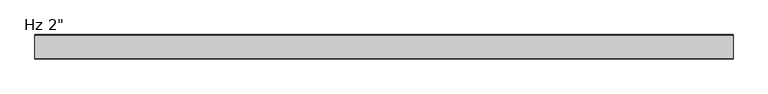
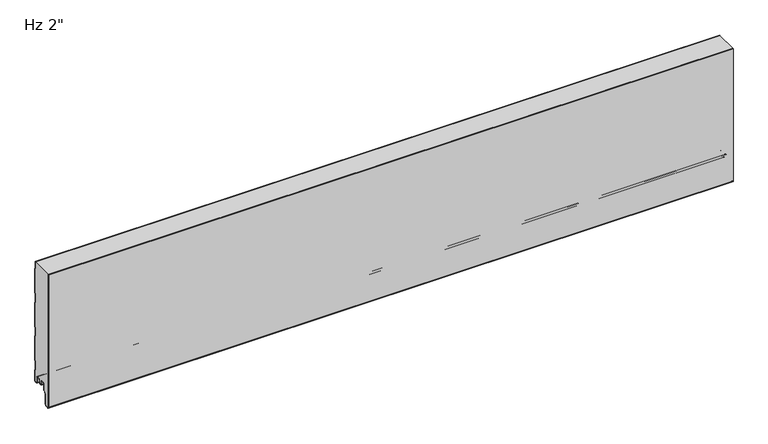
"""IFC4 building model written with IfcOpenShell, lengths in millimetres: plate geometry."""

from ifc_helpers import new_model, si_unit, point, frame, frame_2d, origin, place, context, project, spatial, polyline, circle_curve, trimmed, segment, composite_curve, outline, extrude, source, transform, mapped, element, save
from ifc_brep_helpers import plane_surface, cylinder_surface, revolved_surface, advanced_brep


def plate_b47726fb(model_context):
    return source(origin(), model_context, "Body", "SolidModel", [
        advanced_brep(
        [(-730.0, -22.470875, 1.0316999), (-730.0, -21.3014003, 2.2328239), (-730.0, -21.3014003, 5.9912173), (-730.0, -22.6998791, 5.9912173), (-730.0, -22.6998791, 8.6903283), (-730.0, -26.0498744, 12.0403236), (-730.0, -30.4498656, 12.0403236), (-730.0, -33.7998609, 8.6903283), (-730.0, -33.7998609, -3.1205608), (-730.0, -34.2977778, -4.3226385), (-730.0, -39.7998489, -9.8247096), (-730.0, -39.7998489, -31.9198392), (-730.0, -42.0184509, -34.5765709), (-730.0, -47.0002718, -35.0125699), (-730.0, -49.7945967, -32.4521176), (-730.0, -49.8, 266.4), (-730.0, -2.206575, 266.4), (-730.0, -2.206575, 251.0192115), (-730.0, -1.0063443, 249.6335785), (-730.0, -1.0063443, 195.5801631), (-730.0, -2.206575, 194.1945302), (-730.0, -2.206575, 174.8193639), (-730.0, -1.0063443, 173.4337309), (-730.0, -1.0063443, 119.3803155), (-730.0, -2.206575, 117.9946826), (-730.0, -2.206575, 98.6195163), (-730.0, -1.0063443, 97.2338833), (-730.0, -1.0063443, 43.1804679), (-730.0, -2.206575, 41.794835), (-730.0, -2.206575, 22.4196687), (-730.0, -1.0063359, 21.034026), (-730.0, -1.0063359, -3.4662506), (-730.0, -5.2378832, -3.4662506), (-730.0, -7.0078774, -1.6962564), (-730.0, -7.0078774, 8.7237222), (-730.0, -10.3078733, 12.023718), (-730.0, -14.7078645, 12.023718), (-730.0, -18.0078602, 8.7237223), (-730.0, -18.0078602, 6.0315125), (-730.0, -19.0078547, 6.0315125), (-730.0, -19.0078547, 2.0313089), (-730.0, -18.0078635, 1.0313117), (-730.0, -19.0391752, 0.0), (-730.0, -21.4391751, 0.0), (730.0, -22.470875, 1.0316999), (730.0, -21.4391751, 0.0), (730.0, -19.0391752, 0.0), (730.0, -18.0078635, 1.0313117), (730.0, -19.0078547, 2.0313089), (730.0, -19.0078547, 6.0315125), (730.0, -18.0078602, 6.0315125), (730.0, -18.0078602, 8.7237223), (730.0, -14.7078645, 12.023718), (730.0, -10.3078733, 12.023718), (730.0, -7.0078774, 8.7237222), (730.0, -7.0078774, -1.6962564), (730.0, -5.2378832, -3.4662506), (730.0, -1.0063359, -3.4662506), (730.0, -1.0063359, 21.034026), (730.0, -2.206575, 22.4196687), (730.0, -2.206575, 41.794835), (730.0, -1.0063443, 43.1804679), (730.0, -1.0063443, 97.2338833), (730.0, -2.206575, 98.6195163), (730.0, -2.206575, 117.9946826), (730.0, -1.0063443, 119.3803155), (730.0, -1.0063443, 173.4337309), (730.0, -2.206575, 174.8193639), (730.0, -2.206575, 194.1945302), (730.0, -1.0063443, 195.5801631), (730.0, -1.0063443, 249.6335785), (730.0, -2.206575, 251.0192115), (730.0, -2.206575, 266.4), (730.0, -49.8, 266.4), (730.0, -49.8, -32.4521176), (730.0, -47.0002718, -35.0125699), (730.0, -42.0184509, -34.5765709), (730.0, -39.7998489, -31.9198392), (730.0, -39.7998489, -9.8247096), (730.0, -34.2977778, -4.3226385), (730.0, -33.7998609, -3.1205608), (730.0, -33.7998609, 8.6903283), (730.0, -30.4498656, 12.0403236), (730.0, -26.0498744, 12.0403236), (730.0, -22.6998791, 8.6903283), (730.0, -22.6998791, 5.9912173), (730.0, -21.3014003, 5.9912173), (730.0, -21.3014003, 2.2328239)],
        [
            (0, 1, circle_curve(frame((-730.0, -22.5013969, 2.2313092), z_axis=(1.0, 0.0, 0.0), x_axis=(0.0, 0.0, -1.0)), 1.1999976)),
            (1, 2),
            (2, 3),
            (3, 4),
            (4, 5, circle_curve(frame((-730.0, -26.0498744, 8.6903283), z_axis=(1.0, 0.0, 0.0), x_axis=(0.0, 0.0, -1.0)), 3.3499953)),
            (5, 6),
            (6, 7, circle_curve(frame((-730.0, -30.4498656, 8.6903283), z_axis=(1.0, 0.0, 0.0), x_axis=(0.0, 0.0, -1.0)), 3.3499953)),
            (7, 8),
            (8, 9, circle_curve(frame((-730.0, -35.4998555, -3.1205608), z_axis=(-1.0, 0.0, 0.0), x_axis=(0.0, 0.0, -1.0)), 1.6999946)),
            (9, 10),
            (10, 11),
            (11, 12, circle_curve(frame((-730.0, -42.4998415, -31.9198392), z_axis=(-1.0, 0.0, 0.0), x_axis=(0.0, 0.0, -1.0)), 2.6999926)),
            (12, 13),
            (13, 14, circle_curve(frame((-730.0, -47.2243575, -32.4521176), z_axis=(-1.0, 0.0, 0.0), x_axis=(0.0, 0.0, -1.0)), 2.5702393)),
            (14, 15),
            (15, 16),
            (16, 17),
            (17, 18),
            (18, 19),
            (19, 20),
            (20, 21),
            (21, 22),
            (22, 23),
            (23, 24),
            (24, 25),
            (25, 26),
            (26, 27),
            (27, 28),
            (28, 29),
            (29, 30),
            (30, 31),
            (31, 32),
            (32, 33, circle_curve(frame((-730.0, -5.2378832, -1.6962564), z_axis=(-1.0, 0.0, 0.0), x_axis=(0.0, 0.0, -1.0)), 1.7699942)),
            (33, 34),
            (34, 35, circle_curve(frame((-730.0, -10.3078733, 8.7237222), z_axis=(1.0, 0.0, 0.0), x_axis=(0.0, 0.0, -1.0)), 3.2999959)),
            (35, 36),
            (36, 37, circle_curve(frame((-730.0, -14.7078645, 8.7237223), z_axis=(1.0, 0.0, 0.0), x_axis=(0.0, 0.0, -1.0)), 3.2999957)),
            (37, 38),
            (38, 39),
            (39, 40),
            (40, 41, circle_curve(frame((-730.0, -18.0078576, 2.0313089), z_axis=(1.0, 0.0, 0.0), x_axis=(0.0, 0.0, -1.0)), 0.9999972)),
            (41, 42),
            (42, 43),
            (43, 0),
            (44, 45),
            (45, 46),
            (46, 47),
            (47, 48, circle_curve(frame((730.0, -18.0078576, 2.0313089), z_axis=(-1.0, 0.0, 0.0), x_axis=(0.0, 0.0, -1.0)), 0.9999972)),
            (48, 49),
            (49, 50),
            (50, 51),
            (51, 52, circle_curve(frame((730.0, -14.7078645, 8.7237223), z_axis=(-1.0, 0.0, 0.0), x_axis=(0.0, 0.0, -1.0)), 3.2999957)),
            (52, 53),
            (53, 54, circle_curve(frame((730.0, -10.3078733, 8.7237222), z_axis=(-1.0, 0.0, 0.0), x_axis=(0.0, 0.0, -1.0)), 3.2999959)),
            (54, 55),
            (55, 56, circle_curve(frame((730.0, -5.2378832, -1.6962564), z_axis=(1.0, 0.0, 0.0), x_axis=(0.0, 0.0, -1.0)), 1.7699942)),
            (56, 57),
            (57, 58),
            (58, 59),
            (59, 60),
            (60, 61),
            (61, 62),
            (62, 63),
            (63, 64),
            (64, 65),
            (65, 66),
            (66, 67),
            (67, 68),
            (68, 69),
            (69, 70),
            (70, 71),
            (71, 72),
            (72, 73),
            (73, 74),
            (74, 75, circle_curve(frame((730.0, -47.2243575, -32.4521176), z_axis=(1.0, 0.0, 0.0), x_axis=(0.0, 0.0, -1.0)), 2.5702393)),
            (75, 76),
            (76, 77, circle_curve(frame((730.0, -42.4998415, -31.9198392), z_axis=(1.0, 0.0, 0.0), x_axis=(0.0, 0.0, -1.0)), 2.6999926)),
            (77, 78),
            (78, 79),
            (79, 80, circle_curve(frame((730.0, -35.4998555, -3.1205608), z_axis=(1.0, 0.0, 0.0), x_axis=(0.0, 0.0, -1.0)), 1.6999946)),
            (80, 81),
            (81, 82, circle_curve(frame((730.0, -30.4498656, 8.6903283), z_axis=(-1.0, 0.0, 0.0), x_axis=(0.0, 0.0, -1.0)), 3.3499953)),
            (82, 83),
            (83, 84, circle_curve(frame((730.0, -26.0498744, 8.6903283), z_axis=(-1.0, 0.0, 0.0), x_axis=(0.0, 0.0, -1.0)), 3.3499953)),
            (84, 85),
            (85, 86),
            (86, 87),
            (87, 44, circle_curve(frame((730.0, -22.5013969, 2.2313092), z_axis=(-1.0, 0.0, 0.0), x_axis=(0.0, 0.0, -1.0)), 1.1999976)),
            (43, 45),
            (44, 0),
            (42, 46),
            (41, 47),
            (40, 48),
            (39, 49),
            (38, 50),
            (37, 51),
            (36, 52),
            (35, 53),
            (34, 54),
            (33, 55),
            (32, 56),
            (31, 57),
            (4, 84),
            (83, 5),
            (3, 85),
            (2, 86),
            (1, 87),
            (15, 73),
            (72, 16),
            (82, 6),
            (14, 74),
            (13, 75),
            (12, 76),
            (11, 77),
            (10, 78),
            (9, 79),
            (8, 80),
            (7, 81),
            (30, 58),
            (29, 59),
            (28, 60),
            (27, 61),
            (26, 62),
            (25, 63),
            (24, 64),
            (23, 65),
            (22, 66),
            (21, 67),
            (20, 68),
            (19, 69),
            (18, 70),
            (17, 71),
        ],
        [
            plane_surface(frame((-730.0, -49.8, 533.4), z_axis=(-1.0, 0.0, 0.0), x_axis=(0.0, -1.0, 0.0))),
            plane_surface(frame((730.0, -49.8, 533.4), z_axis=(1.0, 0.0, 0.0), x_axis=(0.0, -1.0, 0.0))),
            plane_surface(frame((-730.0, -22.470875, 1.0316999), z_axis=(0.0, -0.7071067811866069, -0.7071067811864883), x_axis=(1.0, 0.0, 0.0))),
            plane_surface(frame((-730.0, -21.4391751, 0.0), z_axis=(0.0, 0.0, -1.0), x_axis=(1.0, 0.0, 0.0))),
            plane_surface(frame((-730.0, -19.0391752, 0.0), z_axis=(0.0, 0.7071067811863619, -0.7071067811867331), x_axis=(1.0, 0.0, 0.0))),
            revolved_surface(polyline([(730.0, -18.0078576, 1.0313116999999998), (-730.0, -18.0078576, 1.0313116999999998)]), (-730.0, -18.0078576, 2.0313089), (1.0, 0.0, 0.0)),
            plane_surface(frame((-730.0, -19.0078547, 2.0313089), z_axis=(0.0, 1.0, 0.0), x_axis=(1.0, 0.0, 0.0))),
            plane_surface(frame((-730.0, -19.0078547, 6.0315125), z_axis=(0.0, 0.0, -1.0), x_axis=(1.0, 0.0, 0.0))),
            plane_surface(frame((-730.0, -18.0078602, 6.0315125), z_axis=(0.0, 1.0, 0.0), x_axis=(1.0, 0.0, 0.0))),
            revolved_surface(polyline([(730.0, -14.7078645, 5.4237266), (-730.0, -14.7078645, 5.4237266)]), (-730.0, -14.7078645, 8.7237223), (1.0, 0.0, 0.0)),
            plane_surface(frame((-730.0, -14.7078645, 12.023718), z_axis=(0.0, 0.0, -1.0), x_axis=(1.0, 0.0, 0.0))),
            revolved_surface(polyline([(730.0, -10.3078733, 5.423726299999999), (-730.0, -10.3078733, 5.423726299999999)]), (-730.0, -10.3078733, 8.7237222), (1.0, 0.0, 0.0)),
            plane_surface(frame((-730.0, -7.0078774, 8.7237222), z_axis=(0.0, -1.0, 0.0), x_axis=(1.0, 0.0, 0.0))),
            cylinder_surface(frame((-730.0, -5.2378832, -1.6962564), z_axis=(-1.0, 0.0, 0.0), x_axis=(0.0, 0.0, -1.0)), 1.7699942),
            plane_surface(frame((-730.0, -5.2378832, -3.4662506), z_axis=(0.0, 0.0, -1.0), x_axis=(1.0, 0.0, 0.0))),
            revolved_surface(polyline([(730.0, -26.0498744, 5.340332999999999), (-730.0, -26.0498744, 5.340332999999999)]), (-730.0, -26.0498744, 8.6903283), (1.0, 0.0, 0.0)),
            plane_surface(frame((-730.0, -22.6998791, 8.6903283), z_axis=(0.0, -1.0, 0.0), x_axis=(1.0, 0.0, 0.0))),
            plane_surface(frame((-730.0, -22.6998791, 5.9912173), z_axis=(0.0, 0.0, -1.0), x_axis=(1.0, 0.0, 0.0))),
            plane_surface(frame((-730.0, -21.3014003, 5.9912173), z_axis=(0.0, -1.0, 0.0), x_axis=(1.0, 0.0, 0.0))),
            revolved_surface(polyline([(730.0, -22.5013969, 1.0313116), (-730.0, -22.5013969, 1.0313116)]), (-730.0, -22.5013969, 2.2313092), (1.0, 0.0, 0.0)),
            plane_surface(frame((730.0, 10.0, 266.4), z_axis=(0.0, 0.0, 1.0), x_axis=(-1.0, 0.0, 0.0))),
            plane_surface(frame((-730.0, -30.4498656, 12.0403236), z_axis=(0.0, 0.0, -1.0), x_axis=(1.0, 0.0, 0.0))),
            plane_surface(frame((-730.0, -49.8, 1018.3156233), z_axis=(0.0, -1.0, 0.0), x_axis=(1.0, 0.0, 0.0))),
            cylinder_surface(frame((-730.0, -47.2243575, -32.4521176), z_axis=(-1.0, 0.0, 0.0), x_axis=(0.0, 0.0, -1.0)), 2.5702393),
            plane_surface(frame((-730.0, -47.0002718, -35.0125699), z_axis=(0.0, 0.08718474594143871, -0.9961921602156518), x_axis=(1.0, 0.0, 0.0))),
            cylinder_surface(frame((-730.0, -42.4998415, -31.9198392), z_axis=(-1.0, 0.0, 0.0), x_axis=(0.0, 0.0, -1.0)), 2.6999926),
            plane_surface(frame((-730.0, -39.7998489, -31.9198392), z_axis=(0.0, 1.0, 0.0), x_axis=(1.0, 0.0, 0.0))),
            plane_surface(frame((-730.0, -39.7998489, -9.8247096), z_axis=(0.0, 0.7071067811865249, -0.7071067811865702), x_axis=(1.0, 0.0, 0.0))),
            cylinder_surface(frame((-730.0, -35.4998555, -3.1205608), z_axis=(-1.0, 0.0, 0.0), x_axis=(0.0, 0.0, -1.0)), 1.6999946),
            plane_surface(frame((-730.0, -33.7998609, -3.1205608), z_axis=(0.0, 1.0, 0.0), x_axis=(1.0, 0.0, 0.0))),
            revolved_surface(polyline([(730.0, -30.4498656, 5.340332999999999), (-730.0, -30.4498656, 5.340332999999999)]), (-730.0, -30.4498656, 8.6903283), (1.0, 0.0, 0.0)),
            plane_surface(frame((-730.0, -1.0063359, -3.4662506), z_axis=(0.0, 1.0, 0.0), x_axis=(1.0, 0.0, 0.0))),
            plane_surface(frame((-730.0, -1.0063359, 21.034026), z_axis=(0.0, 0.7558648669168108, 0.6547276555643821), x_axis=(1.0, 0.0, 0.0))),
            plane_surface(frame((-730.0, -2.206575, 22.4196687), z_axis=(0.0, 1.0, 0.0), x_axis=(1.0, 0.0, 0.0))),
            plane_surface(frame((-730.0, -2.206575, 41.794835), z_axis=(0.0, 0.7558648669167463, -0.6547276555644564), x_axis=(1.0, 0.0, 0.0))),
            plane_surface(frame((-730.0, -1.0063443, 43.1804679), z_axis=(0.0, 1.0, 0.0), x_axis=(1.0, 0.0, 0.0))),
            plane_surface(frame((-730.0, -1.0063443, 97.2338833), z_axis=(0.0, 0.7558648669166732, 0.6547276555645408), x_axis=(1.0, 0.0, 0.0))),
            plane_surface(frame((-730.0, -2.206575, 98.6195163), z_axis=(0.0, 1.0, 0.0), x_axis=(1.0, 0.0, 0.0))),
            plane_surface(frame((-730.0, -2.206575, 117.9946826), z_axis=(0.0, 0.7558648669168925, -0.6547276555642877), x_axis=(1.0, 0.0, 0.0))),
            plane_surface(frame((-730.0, -1.0063443, 119.3803155), z_axis=(0.0, 1.0, 0.0), x_axis=(1.0, 0.0, 0.0))),
            plane_surface(frame((-730.0, -1.0063443, 173.4337309), z_axis=(0.0, 0.7558648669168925, 0.6547276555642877), x_axis=(1.0, 0.0, 0.0))),
            plane_surface(frame((-730.0, -2.206575, 174.8193639), z_axis=(0.0, 1.0, 0.0), x_axis=(1.0, 0.0, 0.0))),
            plane_surface(frame((-730.0, -2.206575, 194.1945302), z_axis=(0.0, 0.7558648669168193, -0.6547276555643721), x_axis=(1.0, 0.0, 0.0))),
            plane_surface(frame((-730.0, -1.0063443, 195.5801631), z_axis=(0.0, 1.0, 0.0), x_axis=(1.0, 0.0, 0.0))),
            plane_surface(frame((-730.0, -1.0063443, 249.6335785), z_axis=(0.0, 0.7558648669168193, 0.6547276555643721), x_axis=(1.0, 0.0, 0.0))),
            plane_surface(frame((-730.0, -2.206575, 251.0192115), z_axis=(0.0, 1.0, 0.0), x_axis=(1.0, 0.0, 0.0))),
        ],
        [
            (0, [[1, 2, 3, 4, 5, 6, 7, 8, 9, 10, 11, 12, 13, 14, 15, 16, 17, 18, 19, 20, 21, 22, 23, 24, 25, 26, 27, 28, 29, 30, 31, 32, 33, 34, 35, 36, 37, 38, 39, 40, 41, 42, 43, 44]]),
            (1, [[45, 46, 47, 48, 49, 50, 51, 52, 53, 54, 55, 56, 57, 58, 59, 60, 61, 62, 63, 64, 65, 66, 67, 68, 69, 70, 71, 72, 73, 74, 75, 76, 77, 78, 79, 80, 81, 82, 83, 84, 85, 86, 87, 88]]),
            (2, [[89, -45, 90, -44]]),
            (3, [[91, -46, -89, -43]]),
            (4, [[92, -47, -91, -42]]),
            (5, [[93, -48, -92, -41]]),
            (6, [[94, -49, -93, -40]]),
            (7, [[95, -50, -94, -39]]),
            (8, [[96, -51, -95, -38]]),
            (9, [[97, -52, -96, -37]]),
            (10, [[98, -53, -97, -36]]),
            (11, [[99, -54, -98, -35]]),
            (12, [[100, -55, -99, -34]]),
            (13, [[101, -56, -100, -33]]),
            (14, [[102, -57, -101, -32]]),
            (15, [[103, -84, 104, -5]]),
            (16, [[105, -85, -103, -4]]),
            (17, [[106, -86, -105, -3]]),
            (18, [[107, -87, -106, -2]]),
            (19, [[-90, -88, -107, -1]]),
            (20, [[108, -73, 109, -16]]),
            (21, [[-104, -83, 110, -6]]),
            (22, [[-74, -108, -15, 111]]),
            (23, [[112, -75, -111, -14]]),
            (24, [[113, -76, -112, -13]]),
            (25, [[114, -77, -113, -12]]),
            (26, [[115, -78, -114, -11]]),
            (27, [[116, -79, -115, -10]]),
            (28, [[117, -80, -116, -9]]),
            (29, [[118, -81, -117, -8]]),
            (30, [[-110, -82, -118, -7]]),
            (31, [[119, -58, -102, -31]]),
            (32, [[120, -59, -119, -30]]),
            (33, [[121, -60, -120, -29]]),
            (34, [[122, -61, -121, -28]]),
            (35, [[123, -62, -122, -27]]),
            (36, [[124, -63, -123, -26]]),
            (37, [[125, -64, -124, -25]]),
            (38, [[126, -65, -125, -24]]),
            (39, [[127, -66, -126, -23]]),
            (40, [[128, -67, -127, -22]]),
            (41, [[129, -68, -128, -21]]),
            (42, [[130, -69, -129, -20]]),
            (43, [[131, -70, -130, -19]]),
            (44, [[132, -71, -131, -18]]),
            (45, [[-17, -109, -72, -132]]),
        ],
    ),
        advanced_brep(
        [(-730.0, -17.0015159, 2.0313088), (-730.0, -18.0015191, 1.0313116), (-730.0, -19.0015105, 2.0313088), (-730.0, -19.0015105, 6.0315125), (-730.0, -18.0015159, 6.0315125), (-730.0, -18.0015159, 8.7237223), (-730.0, -14.7015202, 12.023718), (-730.0, -10.301529, 12.023718), (-730.0, -7.0015335, 8.7237225), (-730.0, -7.0015335, -1.6962564), (-730.0, -5.2315393, -3.4662506), (-730.0, -0.9999916, -3.4662506), (-730.0, -0.9999916, 21.034026), (-730.0, -2.2002307, 22.4196686), (-730.0, -2.2002307, 41.7948349), (-730.0, -1.0, 43.1804679), (-730.0, -1.0, 97.2338833), (-730.0, -2.2002307, 98.6195162), (-730.0, -2.2002307, 117.9946825), (-730.0, -1.0, 119.3803155), (-730.0, -1.0, 173.4337309), (-730.0, -2.2002307, 174.8193638), (-730.0, -2.2002307, 194.1945301), (-730.0, -1.0, 195.5801631), (-730.0, -1.0, 249.6335785), (-730.0, -2.2002307, 251.0192114), (-730.0, -2.2002307, 266.4), (-730.0, -1.2002307, 266.4), (-730.0, -1.2002307, 251.3920919), (-730.0, -0.3417885, 250.4010442), (-730.0, 0.0, 249.4844273), (-730.0, 0.0, 195.7293142), (-730.0, -0.3417885, 194.8126973), (-730.0, -1.2002307, 193.8216497), (-730.0, -1.2002307, 175.1922443), (-730.0, -0.3417885, 174.2011966), (-730.0, 0.0, 173.2845797), (-730.0, 0.0, 119.5294666), (-730.0, -0.3417885, 118.6128497), (-730.0, -1.2002307, 117.6218021), (-730.0, -1.2002307, 98.9923967), (-730.0, -0.3417885, 98.001349), (-730.0, 0.0, 97.0847321), (-730.0, 0.0, 43.329619), (-730.0, -0.3417885, 42.4130021), (-730.0, -1.2002307, 41.4219545), (-730.0, -1.2002307, 22.7925491), (-730.0, -0.3417885, 21.8015014), (-730.0, 0.0, 20.8847931), (-730.0, 8.4e-06, -3.0662545), (-730.0, -1.3999878, -4.4662506), (-730.0, -5.2315393, -4.4662506), (-730.0, -8.0015335, -1.6962564), (-730.0, -8.0015335, 8.7237225), (-730.0, -10.301529, 11.023718), (-730.0, -14.7015202, 11.023718), (-730.0, -17.0015159, 8.7237223), (730.0, -17.0015159, 2.0313088), (730.0, -17.0015159, 8.7237223), (730.0, -14.7015202, 11.023718), (730.0, -10.301529, 11.023718), (730.0, -8.0015335, 8.7237225), (730.0, -8.0015335, -1.6962564), (730.0, -5.2315393, -4.4662506), (730.0, -1.3999878, -4.4662506), (730.0, 8.4e-06, -3.0662545), (730.0, 8.4e-06, 20.8848845), (730.0, -0.3417885, 21.8015014), (730.0, -1.2002307, 22.7925491), (730.0, -1.2002307, 41.4219545), (730.0, -0.3417885, 42.4130021), (730.0, 0.0, 43.329619), (730.0, 0.0, 97.0847321), (730.0, -0.3417885, 98.001349), (730.0, -1.2002307, 98.9923967), (730.0, -1.2002307, 117.6218021), (730.0, -0.3417885, 118.6128497), (730.0, 0.0, 119.5294666), (730.0, 0.0, 173.2845797), (730.0, -0.3417885, 174.2011966), (730.0, -1.2002307, 175.1922443), (730.0, -1.2002307, 193.8216497), (730.0, -0.3417885, 194.8126973), (730.0, 0.0, 195.7293142), (730.0, 0.0, 249.4844273), (730.0, -0.3417885, 250.4010442), (730.0, -1.2002307, 251.3920919), (730.0, -1.2002307, 266.4), (730.0, -2.2002307, 266.4), (730.0, -2.2002307, 251.0192114), (730.0, -1.0, 249.6335785), (730.0, -1.0, 195.5801631), (730.0, -2.2002307, 194.1945301), (730.0, -2.2002307, 174.8193638), (730.0, -1.0, 173.4337309), (730.0, -1.0, 119.3803155), (730.0, -2.2002307, 117.9946825), (730.0, -2.2002307, 98.6195162), (730.0, -1.0, 97.2338833), (730.0, -1.0, 43.1804679), (730.0, -2.2002307, 41.7948349), (730.0, -2.2002307, 22.4196686), (730.0, -0.9999916, 21.034026), (730.0, -0.9999916, -3.4662506), (730.0, -5.2315393, -3.4662506), (730.0, -7.0015335, -1.6962564), (730.0, -7.0015335, 8.7237225), (730.0, -10.301529, 12.023718), (730.0, -14.7015202, 12.023718), (730.0, -18.0015159, 8.7237223), (730.0, -18.0015159, 6.0315125), (730.0, -19.0015105, 6.0315125), (730.0, -19.0015105, 2.0313088), (730.0, -18.0015192, 1.0313116)],
        [
            (0, 1, circle_curve(frame((-730.0, -18.0015132, 2.0313088), z_axis=(-1.0, 0.0, 0.0), x_axis=(0.0, 0.0, 1.0)), 0.9999973)),
            (1, 2, circle_curve(frame((-730.0, -18.0015133, 2.0313088), z_axis=(-1.0, 0.0, 0.0), x_axis=(0.0, 0.0, 1.0)), 0.9999972)),
            (2, 3),
            (3, 4),
            (4, 5),
            (5, 6, circle_curve(frame((-730.0, -14.7015202, 8.7237223), z_axis=(-1.0, 0.0, 0.0), x_axis=(0.0, 0.0, 1.0)), 3.2999957)),
            (6, 7),
            (7, 8, circle_curve(frame((-730.0, -10.301529, 8.7237225), z_axis=(-1.0, 0.0, 0.0), x_axis=(0.0, 0.0, 1.0)), 3.2999955)),
            (8, 9),
            (9, 10, circle_curve(frame((-730.0, -5.2315393, -1.6962564), z_axis=(1.0, 0.0, 0.0), x_axis=(0.0, 0.0, 1.0)), 1.7699942)),
            (10, 11),
            (11, 12),
            (12, 13),
            (13, 14),
            (14, 15),
            (15, 16),
            (16, 17),
            (17, 18),
            (18, 19),
            (19, 20),
            (20, 21),
            (21, 22),
            (22, 23),
            (23, 24),
            (24, 25),
            (25, 26),
            (26, 27),
            (27, 28),
            (28, 29),
            (29, 30, circle_curve(frame((-730.0, -1.3999972, 249.4844273), z_axis=(-1.0, 0.0, 0.0), x_axis=(0.0, 0.0, 1.0)), 1.3999972)),
            (30, 31),
            (31, 32, circle_curve(frame((-730.0, -1.3999972, 195.7293142), z_axis=(-1.0, 0.0, 0.0), x_axis=(0.0, 0.0, 1.0)), 1.3999972)),
            (32, 33),
            (33, 34),
            (34, 35),
            (35, 36, circle_curve(frame((-730.0, -1.3999972, 173.2845797), z_axis=(-1.0, 0.0, 0.0), x_axis=(0.0, 0.0, 1.0)), 1.3999972)),
            (36, 37),
            (37, 38, circle_curve(frame((-730.0, -1.3999972, 119.5294666), z_axis=(-1.0, 0.0, 0.0), x_axis=(0.0, 0.0, 1.0)), 1.3999972)),
            (38, 39),
            (39, 40),
            (40, 41),
            (41, 42, circle_curve(frame((-730.0, -1.3999972, 97.0847321), z_axis=(-1.0, 0.0, 0.0), x_axis=(0.0, 0.0, 1.0)), 1.3999972)),
            (42, 43),
            (43, 44, circle_curve(frame((-730.0, -1.3999972, 43.329619), z_axis=(-1.0, 0.0, 0.0), x_axis=(0.0, 0.0, 1.0)), 1.3999972)),
            (44, 45),
            (45, 46),
            (46, 47),
            (47, 48, circle_curve(frame((-730.0, -1.3999972, 20.8848845), z_axis=(-1.0, 0.0, 0.0), x_axis=(0.0, 0.0, 1.0)), 1.3999972)),
            (48, 49),
            (49, 50, circle_curve(frame((-730.0, -1.3999878, -3.0662545), z_axis=(-1.0, 0.0, 0.0), x_axis=(0.0, 0.0, 1.0)), 1.3999962)),
            (50, 51),
            (51, 52, circle_curve(frame((-730.0, -5.2315393, -1.6962564), z_axis=(-1.0, 0.0, 0.0), x_axis=(0.0, 0.0, 1.0)), 2.7699942)),
            (52, 53),
            (53, 54, circle_curve(frame((-730.0, -10.301529, 8.7237225), z_axis=(1.0, 0.0, 0.0), x_axis=(0.0, 0.0, 1.0)), 2.2999955)),
            (54, 55),
            (55, 56, circle_curve(frame((-730.0, -14.7015202, 8.7237223), z_axis=(1.0, 0.0, 0.0), x_axis=(0.0, 0.0, 1.0)), 2.2999957)),
            (56, 0),
            (57, 58),
            (58, 59, circle_curve(frame((730.0, -14.7015202, 8.7237223), z_axis=(-1.0, 0.0, 0.0), x_axis=(0.0, 0.0, 1.0)), 2.2999957)),
            (59, 60),
            (60, 61, circle_curve(frame((730.0, -10.301529, 8.7237225), z_axis=(-1.0, 0.0, 0.0), x_axis=(0.0, 0.0, 1.0)), 2.2999955)),
            (61, 62),
            (62, 63, circle_curve(frame((730.0, -5.2315393, -1.6962564), z_axis=(1.0, 0.0, 0.0), x_axis=(0.0, 0.0, 1.0)), 2.7699942)),
            (63, 64),
            (64, 65, circle_curve(frame((730.0, -1.3999878, -3.0662545), z_axis=(1.0, 0.0, 0.0), x_axis=(0.0, 0.0, 1.0)), 1.3999962)),
            (65, 66),
            (66, 67, circle_curve(frame((730.0, -1.3999972, 20.8848845), z_axis=(1.0, 0.0, 0.0), x_axis=(0.0, 0.0, 1.0)), 1.3999972)),
            (67, 68),
            (68, 69),
            (69, 70),
            (70, 71, circle_curve(frame((730.0, -1.3999972, 43.329619), z_axis=(1.0, 0.0, 0.0), x_axis=(0.0, 0.0, 1.0)), 1.3999972)),
            (71, 72),
            (72, 73, circle_curve(frame((730.0, -1.3999972, 97.0847321), z_axis=(1.0, 0.0, 0.0), x_axis=(0.0, 0.0, 1.0)), 1.3999972)),
            (73, 74),
            (74, 75),
            (75, 76),
            (76, 77, circle_curve(frame((730.0, -1.3999972, 119.5294666), z_axis=(1.0, 0.0, 0.0), x_axis=(0.0, 0.0, 1.0)), 1.3999972)),
            (77, 78),
            (78, 79, circle_curve(frame((730.0, -1.3999972, 173.2845797), z_axis=(1.0, 0.0, 0.0), x_axis=(0.0, 0.0, 1.0)), 1.3999972)),
            (79, 80),
            (80, 81),
            (81, 82),
            (82, 83, circle_curve(frame((730.0, -1.3999972, 195.7293142), z_axis=(1.0, 0.0, 0.0), x_axis=(0.0, 0.0, 1.0)), 1.3999972)),
            (83, 84),
            (84, 85, circle_curve(frame((730.0, -1.3999972, 249.4844273), z_axis=(1.0, 0.0, 0.0), x_axis=(0.0, 0.0, 1.0)), 1.3999972)),
            (85, 86),
            (86, 87),
            (87, 88),
            (88, 89),
            (89, 90),
            (90, 91),
            (91, 92),
            (92, 93),
            (93, 94),
            (94, 95),
            (95, 96),
            (96, 97),
            (97, 98),
            (98, 99),
            (99, 100),
            (100, 101),
            (101, 102),
            (102, 103),
            (103, 104),
            (104, 105, circle_curve(frame((730.0, -5.2315393, -1.6962564), z_axis=(-1.0, 0.0, 0.0), x_axis=(0.0, 0.0, 1.0)), 1.7699942)),
            (105, 106),
            (106, 107, circle_curve(frame((730.0, -10.301529, 8.7237225), z_axis=(1.0, 0.0, 0.0), x_axis=(0.0, 0.0, 1.0)), 3.2999955)),
            (107, 108),
            (108, 109, circle_curve(frame((730.0, -14.7015202, 8.7237223), z_axis=(1.0, 0.0, 0.0), x_axis=(0.0, 0.0, 1.0)), 3.2999957)),
            (109, 110),
            (110, 111),
            (111, 112),
            (112, 113, circle_curve(frame((730.0, -18.0015133, 2.0313088), z_axis=(1.0, 0.0, 0.0), x_axis=(0.0, 0.0, 1.0)), 0.9999972)),
            (113, 57, circle_curve(frame((730.0, -18.0015132, 2.0313088), z_axis=(1.0, 0.0, 0.0), x_axis=(0.0, 0.0, 1.0)), 0.9999973)),
            (26, 88),
            (87, 27),
            (56, 58),
            (57, 0),
            (55, 59),
            (54, 60),
            (53, 61),
            (52, 62),
            (51, 63),
            (50, 64),
            (49, 65),
            (48, 66),
            (47, 67),
            (46, 68),
            (45, 69),
            (44, 70),
            (43, 71),
            (42, 72),
            (41, 73),
            (40, 74),
            (39, 75),
            (38, 76),
            (37, 77),
            (36, 78),
            (19, 95),
            (94, 20),
            (18, 96),
            (17, 97),
            (16, 98),
            (15, 99),
            (14, 100),
            (13, 101),
            (12, 102),
            (11, 103),
            (10, 104),
            (9, 105),
            (8, 106),
            (7, 107),
            (6, 108),
            (5, 109),
            (4, 110),
            (3, 111),
            (2, 112),
            (1, 113),
            (35, 79),
            (34, 80),
            (33, 81),
            (32, 82),
            (31, 83),
            (30, 84),
            (29, 85),
            (28, 86),
            (25, 89),
            (24, 90),
            (23, 91),
            (22, 92),
            (21, 93),
        ],
        [
            plane_surface(frame((-730.0, 0.0, 533.4), z_axis=(-1.0, 0.0, 0.0), x_axis=(0.0, 1.0, 0.0))),
            plane_surface(frame((730.0, 0.0, 533.4), z_axis=(1.0, 0.0, 0.0), x_axis=(0.0, 1.0, 0.0))),
            plane_surface(frame((730.0, 10.0, 266.4), z_axis=(0.0, 0.0, 1.0), x_axis=(-1.0, 0.0, 0.0))),
            plane_surface(frame((-730.0, -17.0015159, 2.0313088), z_axis=(0.0, 1.0, 0.0), x_axis=(1.0, 0.0, 0.0))),
            revolved_surface(polyline([(730.0, -14.7015202, 11.023718), (-730.0, -14.7015202, 11.023718)]), (-730.0, -14.7015202, 8.7237223), (1.0, 0.0, 0.0)),
            plane_surface(frame((-730.0, -14.7015202, 11.023718), z_axis=(0.0, 0.0, -1.0), x_axis=(1.0, 0.0, 0.0))),
            revolved_surface(polyline([(730.0, -10.301529, 11.023717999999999), (-730.0, -10.301529, 11.023717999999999)]), (-730.0, -10.301529, 8.7237225), (1.0, 0.0, 0.0)),
            plane_surface(frame((-730.0, -8.0015335, 8.7237225), z_axis=(0.0, -1.0, 0.0), x_axis=(1.0, 0.0, 0.0))),
            cylinder_surface(frame((-730.0, -5.2315393, -1.6962564), z_axis=(-1.0, 0.0, 0.0), x_axis=(0.0, 0.0, 1.0)), 2.7699942),
            plane_surface(frame((-730.0, -5.2315393, -4.4662506), z_axis=(0.0, 0.0, -1.0), x_axis=(1.0, 0.0, 0.0))),
            cylinder_surface(frame((-730.0, -1.3999878, -3.0662545), z_axis=(-1.0, 0.0, 0.0), x_axis=(0.0, 0.0, 1.0)), 1.3999962),
            plane_surface(frame((-730.0, 8.4e-06, -3.0662545), z_axis=(0.0, 1.0, 0.0), x_axis=(1.0, 0.0, 0.0))),
            cylinder_surface(frame((-730.0, -1.3999972, 20.8848845), z_axis=(-1.0, 0.0, 0.0), x_axis=(0.0, 0.0, 1.0)), 1.3999972),
            plane_surface(frame((-730.0, -0.3417885, 21.8015014), z_axis=(0.0, 0.755864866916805, 0.6547276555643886), x_axis=(1.0, 0.0, 0.0))),
            plane_surface(frame((-730.0, -1.2002307, 32.1072518), z_axis=(0.0, 1.0, 0.0), x_axis=(1.0, 0.0, 0.0))),
            plane_surface(frame((-730.0, -1.2002307, 41.4219545), z_axis=(0.0, 0.755864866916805, -0.6547276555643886), x_axis=(1.0, 0.0, 0.0))),
            cylinder_surface(frame((-730.0, -1.3999972, 43.329619), z_axis=(-1.0, 0.0, 0.0), x_axis=(0.0, 0.0, 1.0)), 1.3999972),
            plane_surface(frame((-730.0, 0.0, 43.329619), z_axis=(0.0, 1.0, 0.0), x_axis=(1.0, 0.0, 0.0))),
            cylinder_surface(frame((-730.0, -1.3999972, 97.0847321), z_axis=(-1.0, 0.0, 0.0), x_axis=(0.0, 0.0, 1.0)), 1.3999972),
            plane_surface(frame((-730.0, -0.3417885, 98.001349), z_axis=(0.0, 0.755864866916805, 0.6547276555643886), x_axis=(1.0, 0.0, 0.0))),
            plane_surface(frame((-730.0, -1.2002307, 108.3070994), z_axis=(0.0, 1.0, 0.0), x_axis=(1.0, 0.0, 0.0))),
            plane_surface(frame((-730.0, -1.2002307, 117.6218021), z_axis=(0.0, 0.755864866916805, -0.6547276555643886), x_axis=(1.0, 0.0, 0.0))),
            cylinder_surface(frame((-730.0, -1.3999972, 119.5294666), z_axis=(-1.0, 0.0, 0.0), x_axis=(0.0, 0.0, 1.0)), 1.3999972),
            plane_surface(frame((-730.0, 0.0, 119.5294666), z_axis=(0.0, 1.0, 0.0), x_axis=(1.0, 0.0, 0.0))),
            plane_surface(frame((-730.0, -1.0, 173.4337309), z_axis=(0.0, -1.0, 0.0), x_axis=(1.0, 0.0, 0.0))),
            plane_surface(frame((-730.0, -1.0, 119.3803155), z_axis=(0.0, -0.755864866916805, 0.6547276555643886), x_axis=(1.0, 0.0, 0.0))),
            plane_surface(frame((-730.0, -2.2002307, 117.9946825), z_axis=(0.0, -1.0, 0.0), x_axis=(1.0, 0.0, 0.0))),
            plane_surface(frame((-730.0, -2.2002307, 98.6195162), z_axis=(0.0, -0.755864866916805, -0.6547276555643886), x_axis=(1.0, 0.0, 0.0))),
            plane_surface(frame((-730.0, -1.0, 97.2338833), z_axis=(0.0, -1.0, 0.0), x_axis=(1.0, 0.0, 0.0))),
            plane_surface(frame((-730.0, -1.0, 43.1804679), z_axis=(0.0, -0.755864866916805, 0.6547276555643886), x_axis=(1.0, 0.0, 0.0))),
            plane_surface(frame((-730.0, -2.2002307, 41.7948349), z_axis=(0.0, -1.0, 0.0), x_axis=(1.0, 0.0, 0.0))),
            plane_surface(frame((-730.0, -2.2002307, 22.4196686), z_axis=(0.0, -0.755864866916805, -0.6547276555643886), x_axis=(1.0, 0.0, 0.0))),
            plane_surface(frame((-730.0, -0.9999916, 21.034026), z_axis=(0.0, -1.0, 0.0), x_axis=(1.0, 0.0, 0.0))),
            plane_surface(frame((-730.0, -0.9999916, -3.4662506), z_axis=(0.0, 0.0, 1.0), x_axis=(1.0, 0.0, 0.0))),
            revolved_surface(polyline([(730.0, -5.2315393, 0.07373779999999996), (-730.0, -5.2315393, 0.07373779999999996)]), (-730.0, -5.2315393, -1.6962564), (1.0, 0.0, 0.0)),
            plane_surface(frame((-730.0, -7.0015335, -1.6962564), z_axis=(0.0, 1.0, 0.0), x_axis=(1.0, 0.0, 0.0))),
            cylinder_surface(frame((-730.0, -10.301529, 8.7237225), z_axis=(-1.0, 0.0, 0.0), x_axis=(0.0, 0.0, 1.0)), 3.2999955),
            plane_surface(frame((-730.0, -10.301529, 12.023718), z_axis=(0.0, 0.0, 1.0), x_axis=(1.0, 0.0, 0.0))),
            cylinder_surface(frame((-730.0, -14.7015202, 8.7237223), z_axis=(-1.0, 0.0, 0.0), x_axis=(0.0, 0.0, 1.0)), 3.2999957),
            plane_surface(frame((-730.0, -18.0015159, 8.7237223), z_axis=(0.0, -1.0, 0.0), x_axis=(1.0, 0.0, 0.0))),
            plane_surface(frame((-730.0, -18.0015159, 6.0315125), z_axis=(0.0, 0.0, 1.0), x_axis=(1.0, 0.0, 0.0))),
            plane_surface(frame((-730.0, -19.0015105, 6.0315125), z_axis=(0.0, -1.0, 0.0), x_axis=(1.0, 0.0, 0.0))),
            cylinder_surface(frame((-730.0, -18.0015133, 2.0313088), z_axis=(-1.0, 0.0, 0.0), x_axis=(0.0, 0.0, 1.0)), 0.9999972),
            cylinder_surface(frame((-730.0, -18.0015132, 2.0313088), z_axis=(-1.0, 0.0, 0.0), x_axis=(0.0, 0.0, 1.0)), 0.9999973),
            cylinder_surface(frame((-730.0, -1.3999972, 173.2845797), z_axis=(-1.0, 0.0, 0.0), x_axis=(0.0, 0.0, 1.0)), 1.3999972),
            plane_surface(frame((-730.0, -0.3417885, 174.2011966), z_axis=(0.0, 0.755864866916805, 0.6547276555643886), x_axis=(1.0, 0.0, 0.0))),
            plane_surface(frame((-730.0, -1.2002307, 184.506947), z_axis=(0.0, 1.0, 0.0), x_axis=(1.0, 0.0, 0.0))),
            plane_surface(frame((-730.0, -1.2002307, 193.8216497), z_axis=(0.0, 0.755864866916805, -0.6547276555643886), x_axis=(1.0, 0.0, 0.0))),
            cylinder_surface(frame((-730.0, -1.3999972, 195.7293142), z_axis=(-1.0, 0.0, 0.0), x_axis=(0.0, 0.0, 1.0)), 1.3999972),
            plane_surface(frame((-730.0, 0.0, 195.7293142), z_axis=(0.0, 1.0, 0.0), x_axis=(1.0, 0.0, 0.0))),
            cylinder_surface(frame((-730.0, -1.3999972, 249.4844273), z_axis=(-1.0, 0.0, 0.0), x_axis=(0.0, 0.0, 1.0)), 1.3999972),
            plane_surface(frame((-730.0, -0.3417885, 250.4010442), z_axis=(0.0, 0.755864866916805, 0.6547276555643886), x_axis=(1.0, 0.0, 0.0))),
            plane_surface(frame((-730.0, -1.2002307, 260.7067946), z_axis=(0.0, 1.0, 0.0), x_axis=(1.0, 0.0, 0.0))),
            plane_surface(frame((-730.0, -2.2002307, 270.3943777), z_axis=(0.0, -1.0, 0.0), x_axis=(1.0, 0.0, 0.0))),
            plane_surface(frame((-730.0, -2.2002307, 251.0192114), z_axis=(0.0, -0.755864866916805, -0.6547276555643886), x_axis=(1.0, 0.0, 0.0))),
            plane_surface(frame((-730.0, -1.0, 249.6335785), z_axis=(0.0, -1.0, 0.0), x_axis=(1.0, 0.0, 0.0))),
            plane_surface(frame((-730.0, -1.0, 195.5801631), z_axis=(0.0, -0.755864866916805, 0.6547276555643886), x_axis=(1.0, 0.0, 0.0))),
            plane_surface(frame((-730.0, -2.2002307, 194.1945301), z_axis=(0.0, -1.0, 0.0), x_axis=(1.0, 0.0, 0.0))),
            plane_surface(frame((-730.0, -2.2002307, 174.8193638), z_axis=(0.0, -0.755864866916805, -0.6547276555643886), x_axis=(1.0, 0.0, 0.0))),
        ],
        [
            (0, [[1, 2, 3, 4, 5, 6, 7, 8, 9, 10, 11, 12, 13, 14, 15, 16, 17, 18, 19, 20, 21, 22, 23, 24, 25, 26, 27, 28, 29, 30, 31, 32, 33, 34, 35, 36, 37, 38, 39, 40, 41, 42, 43, 44, 45, 46, 47, 48, 49, 50, 51, 52, 53, 54, 55, 56, 57]]),
            (1, [[58, 59, 60, 61, 62, 63, 64, 65, 66, 67, 68, 69, 70, 71, 72, 73, 74, 75, 76, 77, 78, 79, 80, 81, 82, 83, 84, 85, 86, 87, 88, 89, 90, 91, 92, 93, 94, 95, 96, 97, 98, 99, 100, 101, 102, 103, 104, 105, 106, 107, 108, 109, 110, 111, 112, 113, 114]]),
            (2, [[115, -88, 116, -27]]),
            (3, [[117, -58, 118, -57]]),
            (4, [[119, -59, -117, -56]]),
            (5, [[120, -60, -119, -55]]),
            (6, [[121, -61, -120, -54]]),
            (7, [[122, -62, -121, -53]]),
            (8, [[123, -63, -122, -52]]),
            (9, [[124, -64, -123, -51]]),
            (10, [[125, -65, -124, -50]]),
            (11, [[126, -66, -125, -49]]),
            (12, [[127, -67, -126, -48]]),
            (13, [[128, -68, -127, -47]]),
            (14, [[129, -69, -128, -46]]),
            (15, [[130, -70, -129, -45]]),
            (16, [[131, -71, -130, -44]]),
            (17, [[132, -72, -131, -43]]),
            (18, [[133, -73, -132, -42]]),
            (19, [[134, -74, -133, -41]]),
            (20, [[135, -75, -134, -40]]),
            (21, [[136, -76, -135, -39]]),
            (22, [[137, -77, -136, -38]]),
            (23, [[138, -78, -137, -37]]),
            (24, [[139, -95, 140, -20]]),
            (25, [[141, -96, -139, -19]]),
            (26, [[142, -97, -141, -18]]),
            (27, [[143, -98, -142, -17]]),
            (28, [[144, -99, -143, -16]]),
            (29, [[145, -100, -144, -15]]),
            (30, [[146, -101, -145, -14]]),
            (31, [[147, -102, -146, -13]]),
            (32, [[148, -103, -147, -12]]),
            (33, [[149, -104, -148, -11]]),
            (34, [[150, -105, -149, -10]]),
            (35, [[151, -106, -150, -9]]),
            (36, [[152, -107, -151, -8]]),
            (37, [[153, -108, -152, -7]]),
            (38, [[154, -109, -153, -6]]),
            (39, [[155, -110, -154, -5]]),
            (40, [[156, -111, -155, -4]]),
            (41, [[157, -112, -156, -3]]),
            (42, [[158, -113, -157, -2]]),
            (43, [[-118, -114, -158, -1]]),
            (44, [[159, -79, -138, -36]]),
            (45, [[160, -80, -159, -35]]),
            (46, [[161, -81, -160, -34]]),
            (47, [[162, -82, -161, -33]]),
            (48, [[163, -83, -162, -32]]),
            (49, [[164, -84, -163, -31]]),
            (50, [[165, -85, -164, -30]]),
            (51, [[166, -86, -165, -29]]),
            (52, [[-28, -116, -87, -166]]),
            (53, [[-89, -115, -26, 167]]),
            (54, [[168, -90, -167, -25]]),
            (55, [[169, -91, -168, -24]]),
            (56, [[170, -92, -169, -23]]),
            (57, [[171, -93, -170, -22]]),
            (58, [[-140, -94, -171, -21]]),
        ],
    ),
        extrude(outline(composite_curve([segment(trimmed(circle_curve(frame_2d((-47.2304001, -32.4521176)), 3.5702393), [point((-46.9191297, -36.008762))], [point((-50.8, -32.5196853))], False, "CARTESIAN"), True, "CONTINUOUS"), segment(polyline([(-50.8, -32.5196853), (-50.8, 266.4), (-49.8, 266.4), (-49.8, -32.509446)]), True, "CONTINUOUS"), segment(trimmed(circle_curve(frame_2d((-47.2304001, -32.4521176)), 2.5702393), [point((-49.8, -32.509446))], [point((-47.0063145, -35.0125699))], True, "CARTESIAN"), True, "CONTINUOUS"), segment(polyline([(-47.0063145, -35.0125699), (-42.0244936, -34.5765709)]), True, "CONTINUOUS"), segment(trimmed(circle_curve(frame_2d((-42.5058842, -31.9198392)), 2.6999926), [point((-42.0244936, -34.5765709))], [point((-39.8058916, -31.9198392))], True, "CARTESIAN"), True, "CONTINUOUS"), segment(polyline([(-39.8058916, -31.9198392), (-39.8058916, -9.8247096), (-34.3038205, -4.3226385)]), True, "CONTINUOUS"), segment(trimmed(circle_curve(frame_2d((-35.5058982, -3.1205608)), 1.6999946), [point((-34.3038205, -4.3226385))], [point((-33.8059036, -3.1205608))], True, "CARTESIAN"), True, "CONTINUOUS"), segment(polyline([(-33.8059036, -3.1205608), (-33.8059036, 8.6903283)]), True, "CONTINUOUS"), segment(trimmed(circle_curve(frame_2d((-30.4559083, 8.6903283)), 3.3499953), [point((-33.8059036, 8.6903283))], [point((-30.4559083, 12.0403236))], False, "CARTESIAN"), True, "CONTINUOUS"), segment(polyline([(-30.4559083, 12.0403236), (-26.0559171, 12.0403236)]), True, "CONTINUOUS"), segment(trimmed(circle_curve(frame_2d((-26.0559171, 8.6903283)), 3.3499953), [point((-26.0559171, 12.0403236))], [point((-22.7059218, 8.6903283))], False, "CARTESIAN"), True, "CONTINUOUS"), segment(polyline([(-22.7059218, 8.6903283), (-22.7059218, 5.9912173), (-21.3074429, 5.9912173), (-21.3074429, 2.2328239)]), True, "CONTINUOUS"), segment(trimmed(circle_curve(frame_2d((-22.5074396, 2.2313092)), 1.1999976), [point((-21.3074429, 2.2328239))], [point((-22.4769177, 1.0316999))], False, "CARTESIAN"), True, "CONTINUOUS"), segment(trimmed(circle_curve(frame_2d((-22.5074396, 2.2313092)), 1.1999976), [point((-22.4769177, 1.0316999))], [point((-23.7059218, 2.1710221))], False, "CARTESIAN"), True, "CONTINUOUS"), segment(polyline([(-23.7059218, 2.1710221), (-23.7059218, 8.6903283)]), True, "CONTINUOUS"), segment(trimmed(circle_curve(frame_2d((-26.0559171, 8.6903283)), 2.3499953), [point((-23.7059218, 8.6903283))], [point((-26.0559171, 11.0403236))], True, "CARTESIAN"), True, "CONTINUOUS"), segment(polyline([(-26.0559171, 11.0403236), (-30.4559083, 11.0403236)]), True, "CONTINUOUS"), segment(trimmed(circle_curve(frame_2d((-30.4559083, 8.6903283)), 2.3499953), [point((-30.4559083, 11.0403236))], [point((-32.8059036, 8.6903283))], True, "CARTESIAN"), True, "CONTINUOUS"), segment(polyline([(-32.8059036, 8.6903283), (-32.8059036, -3.1205608)]), True, "CONTINUOUS"), segment(trimmed(circle_curve(frame_2d((-35.5058982, -3.1205608)), 2.6999946), [point((-32.8059036, -3.1205608))], [point((-33.5967137, -5.0297453))], False, "CARTESIAN"), True, "CONTINUOUS"), segment(polyline([(-33.5967137, -5.0297453), (-38.4251312, -9.8581627)]), True, "CONTINUOUS"), segment(trimmed(circle_curve(frame_2d((-37.5058942, -10.7773997)), 1.2999974), [point((-38.4251312, -9.8581627))], [point((-38.8058916, -10.7773997))], True, "CARTESIAN"), True, "CONTINUOUS"), segment(polyline([(-38.8058916, -10.7773997), (-38.8058916, -31.9198392)]), True, "CONTINUOUS"), segment(trimmed(circle_curve(frame_2d((-42.5058842, -31.9198392)), 3.6999926), [point((-38.8058916, -31.9198392))], [point((-41.8950831, -35.5690675))], False, "CARTESIAN"), True, "CONTINUOUS"), segment(polyline([(-41.8950831, -35.5690675), (-46.9191297, -36.008762)]), True, "CONTINUOUS")], self_intersect=False)), frame((-730.0, 0.0, 0.0), z_axis=(1.0, 0.0, 0.0), x_axis=(0.0, 1.0, 0.0)), (0.0, 0.0, 1.0), 1460.0),
    ])


if __name__ == "__main__":
    model = new_model("IFC4")
    model_context = context("Model", 3, world=origin())
    ifc_project = project(units=[si_unit("LENGTHUNIT", "METRE", prefix="MILLI")], contexts=[model_context])
    site = spatial("IfcSite", under=ifc_project)
    building = spatial("IfcBuilding", under=site)
    placement = place(None, origin())
    plate_shape = plate_b47726fb(model_context)
    element("IfcPlate", 1, ObjectType="KIP-42-Karrier-KP-R19-CP-Hz-FL3-8in_SL : Hz 2\"", at=placement, inside=building, context=model_context, shape_type="MappedRepresentation", body=[
        mapped(plate_shape, transform((0.0, 0.0, 0.0), x_axis=(1.0, 0.0, 0.0), y_axis=(0.0, 1.0, 0.0), z_axis=(0.0, 0.0, 1.0))),
    ])
    save(model, "model.ifc")
